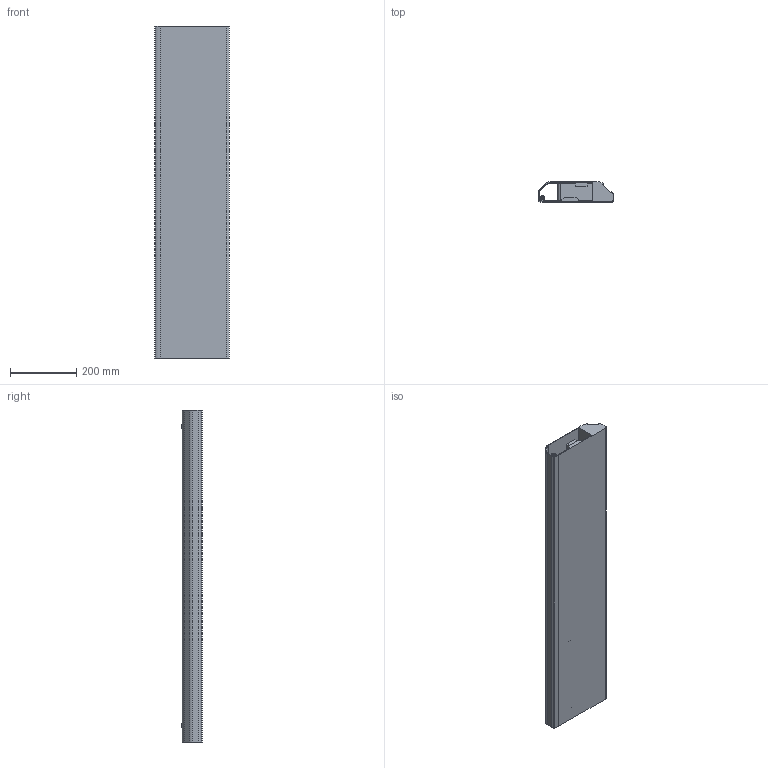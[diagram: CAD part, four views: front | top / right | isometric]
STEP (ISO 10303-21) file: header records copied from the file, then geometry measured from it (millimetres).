
FILE_DESCRIPTION((''),'2;1');
FILE_NAME('COLORADO_EDGE_3_FL6103D_ASM','2026-04-13T21:05:24',('006250'),(''),'CREO PARAMETRIC BY PTC INC, 2018050','CREO PARAMETRIC BY PTC INC, 2018050','');
FILE_SCHEMA(('CONFIG_CONTROL_DESIGN'));
Length unit declared in the file: millimetre
Products named in the file (4): 100000_3; 100000_2; ASM0001_ASM_1_ASM; COLORADO_EDGE_3_FL6103D_ASM
Assembly tree (3 placements, depth 3):
  COLORADO_EDGE_3_FL6103D_ASM
    ASM0001_ASM_1_ASM
      100000_3
      100000_2
Bounding box: 225.84 x 61.4 x 1000 mm (x, y, z)
Volume: 6554979.3 mm3; surface area: 1053239.7 mm2
Topology: 2 solids, 2 shells, 89 faces, 252 edges, 172 vertices
Faces by surface type: plane 58, cylinder 31
Entity records: 3034 total; most frequent: DIRECTION 522, CARTESIAN_POINT 522, ORIENTED_EDGE 504, EDGE_CURVE 252, VECTOR 178, LINE 178, AXIS2_PLACEMENT_3D 172, VERTEX_POINT 172
